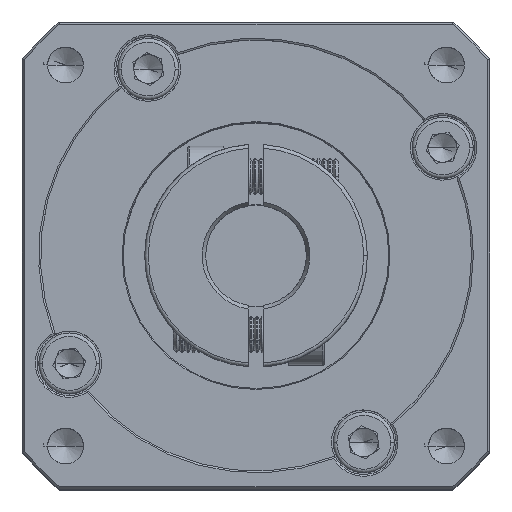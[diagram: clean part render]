
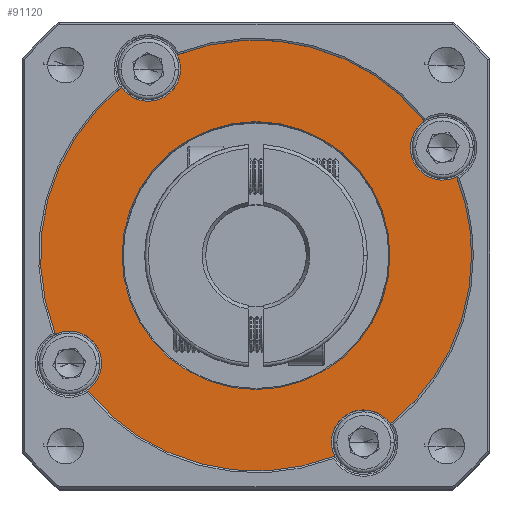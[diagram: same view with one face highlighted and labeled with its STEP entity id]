
A CAD part, top view. The second image highlights one B-rep face of the part: STEP entity #91120.
In plain terms, the highlighted planar face has unit normal (0, 0, 1).
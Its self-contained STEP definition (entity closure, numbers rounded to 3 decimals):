
#580 = VERTEX_POINT ( 'NONE', #54338 ) ;
#960 = VERTEX_POINT ( 'NONE', #89975 ) ;
#2285 = VERTEX_POINT ( 'NONE', #31292 ) ;
#2361 = AXIS2_PLACEMENT_3D ( 'NONE', #92431, #44758, #100383 ) ;
#5996 = EDGE_LOOP ( 'NONE', ( #40536, #64285 ) ) ;
#6106 = CIRCLE ( 'NONE', #98175, 30. ) ;
#6618 = CARTESIAN_POINT ( 'NONE',  ( -48.728, 29.687, 14.19 ) ) ;
#7718 = DIRECTION ( 'NONE',  ( 1., 0., 0. ) ) ;
#7973 = DIRECTION ( 'NONE',  ( 0., 0., 1. ) ) ;
#8687 = AXIS2_PLACEMENT_3D ( 'NONE', #79748, #32057, #87744 ) ;
#9512 = EDGE_CURVE ( 'NONE', #580, #2285, #61844, .T. ) ;
#10416 = EDGE_LOOP ( 'NONE', ( #48152, #46362, #55288, #100382, #94833, #67815, #102949, #67441, #72274, #65399, #74309, #58174, #73055 ) ) ;
#10583 = CIRCLE ( 'NONE', #18776, 30. ) ;
#10881 = CARTESIAN_POINT ( 'NONE',  ( -67.445, 53.132, 14.19 ) ) ;
#11104 = DIRECTION ( 'NONE',  ( 0., 0., 1. ) ) ;
#12158 = VERTEX_POINT ( 'NONE', #62290 ) ;
#12739 = VERTEX_POINT ( 'NONE', #79501 ) ;
#13048 = CARTESIAN_POINT ( 'NONE',  ( -59.673, 57.62, 14.19 ) ) ;
#13402 = DIRECTION ( 'NONE',  ( 0., 0., 1. ) ) ;
#14660 = DIRECTION ( 'NONE',  ( 1., 0., 0. ) ) ;
#15175 = VERTEX_POINT ( 'NONE', #65470 ) ;
#15712 = CARTESIAN_POINT ( 'NONE',  ( -22.747, 44.687, 14.19 ) ) ;
#17402 = CIRCLE ( 'NONE', #17854, 18.644 ) ;
#17854 = AXIS2_PLACEMENT_3D ( 'NONE', #85612, #37907, #93554 ) ;
#18776 = AXIS2_PLACEMENT_3D ( 'NONE', #41251, #96872, #49284 ) ;
#21478 = CARTESIAN_POINT ( 'NONE',  ( -25.283, 48.405, 14.19 ) ) ;
#21777 = CARTESIAN_POINT ( 'NONE',  ( -59.228, 55.668, 14.19 ) ) ;
#22384 = DIRECTION ( 'NONE',  ( 0., 0., 1. ) ) ;
#23012 = CIRCLE ( 'NONE', #69516, 18.644 ) ;
#23755 = DIRECTION ( 'NONE',  ( 1., 0., 0. ) ) ;
#24638 = AXIS2_PLACEMENT_3D ( 'NONE', #63376, #63246, #63133 ) ;
#26722 = AXIS2_PLACEMENT_3D ( 'NONE', #89559, #41907, #97528 ) ;
#27914 = CARTESIAN_POINT ( 'NONE',  ( -67.372, 29.687, 14.19 ) ) ;
#31292 = CARTESIAN_POINT ( 'NONE',  ( -70.209, 14.687, 14.19 ) ) ;
#31570 = EDGE_CURVE ( 'NONE', #91979, #12158, #87166, .T. ) ;
#31782 = DIRECTION ( 'NONE',  ( 0., 0., 1. ) ) ;
#32057 = DIRECTION ( 'NONE',  ( 0., 0., 1. ) ) ;
#32376 = VERTEX_POINT ( 'NONE', #39839 ) ;
#34356 = VERTEX_POINT ( 'NONE', #51025 ) ;
#35681 = DIRECTION ( 'NONE',  ( 0., 0., 1. ) ) ;
#36033 = CARTESIAN_POINT ( 'NONE',  ( -48.728, 29.687, 14.19 ) ) ;
#37907 = DIRECTION ( 'NONE',  ( 0., 0., -1. ) ) ;
#38050 = VERTEX_POINT ( 'NONE', #84730 ) ;
#39839 = CARTESIAN_POINT ( 'NONE',  ( -30.01, 6.243, 14.19 ) ) ;
#40422 = FACE_BOUND ( 'NONE', #5996, .T. ) ;
#40536 = ORIENTED_EDGE ( 'NONE', *, *, #90964, .T. ) ;
#41251 = CARTESIAN_POINT ( 'NONE',  ( -48.728, 29.687, 14.19 ) ) ;
#41481 = EDGE_CURVE ( 'NONE', #2285, #38050, #62004, .T. ) ;
#41568 = CIRCLE ( 'NONE', #62627, 4.5 ) ;
#41907 = DIRECTION ( 'NONE',  ( 0., 0., 1. ) ) ;
#43369 = CARTESIAN_POINT ( 'NONE',  ( -38.228, 3.707, 14.19 ) ) ;
#43821 = AXIS2_PLACEMENT_3D ( 'NONE', #79480, #31782, #87480 ) ;
#44001 = DIRECTION ( 'NONE',  ( 1., 0., 0. ) ) ;
#44758 = DIRECTION ( 'NONE',  ( 0., 0., 1. ) ) ;
#45414 = AXIS2_PLACEMENT_3D ( 'NONE', #58894, #11104, #66957 ) ;
#45428 = FACE_OUTER_BOUND ( 'NONE', #10416, .T. ) ;
#46362 = ORIENTED_EDGE ( 'NONE', *, *, #48919, .T. ) ;
#48152 = ORIENTED_EDGE ( 'NONE', *, *, #9512, .F. ) ;
#48919 = EDGE_CURVE ( 'NONE', #580, #960, #78797, .T. ) ;
#48944 = CIRCLE ( 'NONE', #43821, 30. ) ;
#49284 = DIRECTION ( 'NONE',  ( 1., 0., 0. ) ) ;
#49802 = AXIS2_PLACEMENT_3D ( 'NONE', #103108, #55571, #7718 ) ;
#51025 = CARTESIAN_POINT ( 'NONE',  ( -30.083, 29.687, 14.19 ) ) ;
#54338 = CARTESIAN_POINT ( 'NONE',  ( -72.173, 10.97, 14.19 ) ) ;
#55288 = ORIENTED_EDGE ( 'NONE', *, *, #59945, .F. ) ;
#55571 = DIRECTION ( 'NONE',  ( 0., 0., 1. ) ) ;
#55822 = CARTESIAN_POINT ( 'NONE',  ( -74.709, 14.687, 14.19 ) ) ;
#58095 = AXIS2_PLACEMENT_3D ( 'NONE', #55822, #7973, #63839 ) ;
#58174 = ORIENTED_EDGE ( 'NONE', *, *, #64223, .T. ) ;
#58481 = CIRCLE ( 'NONE', #8687, 4.5 ) ;
#58894 = CARTESIAN_POINT ( 'NONE',  ( -22.747, 44.687, 14.19 ) ) ;
#59945 = EDGE_CURVE ( 'NONE', #70482, #960, #86503, .T. ) ;
#61242 = CARTESIAN_POINT ( 'NONE',  ( -33.728, 3.707, 14.19 ) ) ;
#61844 = CIRCLE ( 'NONE', #24638, 4.5 ) ;
#62004 = CIRCLE ( 'NONE', #58095, 4.5 ) ;
#62290 = CARTESIAN_POINT ( 'NONE',  ( -27.247, 44.687, 14.19 ) ) ;
#62478 = DIRECTION ( 'NONE',  ( 0., 0., 1. ) ) ;
#62627 = AXIS2_PLACEMENT_3D ( 'NONE', #15712, #71555, #23755 ) ;
#62909 = VERTEX_POINT ( 'NONE', #10881 ) ;
#63133 = DIRECTION ( 'NONE',  ( 1., 0., 0. ) ) ;
#63246 = DIRECTION ( 'NONE',  ( 0., 0., 1. ) ) ;
#63376 = CARTESIAN_POINT ( 'NONE',  ( -74.709, 14.687, 14.19 ) ) ;
#63839 = DIRECTION ( 'NONE',  ( 1., 0., 0. ) ) ;
#64223 = EDGE_CURVE ( 'NONE', #62909, #38050, #10583, .T. ) ;
#64285 = ORIENTED_EDGE ( 'NONE', *, *, #73738, .T. ) ;
#65399 = ORIENTED_EDGE ( 'NONE', *, *, #98124, .F. ) ;
#65470 = CARTESIAN_POINT ( 'NONE',  ( -18.728, 29.687, 14.19 ) ) ;
#65699 = CIRCLE ( 'NONE', #49802, 4.5 ) ;
#66503 = AXIS2_PLACEMENT_3D ( 'NONE', #83346, #35681, #91325 ) ;
#66957 = DIRECTION ( 'NONE',  ( 1., 0., 0. ) ) ;
#67441 = ORIENTED_EDGE ( 'NONE', *, *, #31570, .F. ) ;
#67580 = AXIS2_PLACEMENT_3D ( 'NONE', #6618, #62478, #14660 ) ;
#67815 = ORIENTED_EDGE ( 'NONE', *, *, #86558, .T. ) ;
#67970 = EDGE_CURVE ( 'NONE', #12158, #12739, #41568, .T. ) ;
#68401 = AXIS2_PLACEMENT_3D ( 'NONE', #61242, #13402, #69216 ) ;
#69216 = DIRECTION ( 'NONE',  ( 1., 0., 0. ) ) ;
#69516 = AXIS2_PLACEMENT_3D ( 'NONE', #36033, #91674, #44001 ) ;
#70151 = CARTESIAN_POINT ( 'NONE',  ( -48.728, 29.687, 14.19 ) ) ;
#70482 = VERTEX_POINT ( 'NONE', #43369 ) ;
#71555 = DIRECTION ( 'NONE',  ( 0., 0., 1. ) ) ;
#72274 = ORIENTED_EDGE ( 'NONE', *, *, #72938, .T. ) ;
#72938 = EDGE_CURVE ( 'NONE', #91979, #101109, #48944, .T. ) ;
#73055 = ORIENTED_EDGE ( 'NONE', *, *, #41481, .F. ) ;
#73738 = EDGE_CURVE ( 'NONE', #85456, #34356, #17402, .T. ) ;
#74309 = ORIENTED_EDGE ( 'NONE', *, *, #101281, .F. ) ;
#78143 = PLANE ( 'NONE',  #67580 ) ;
#78170 = DIRECTION ( 'NONE',  ( 1., 0., 0. ) ) ;
#78797 = CIRCLE ( 'NONE', #2361, 30. ) ;
#79480 = CARTESIAN_POINT ( 'NONE',  ( -48.728, 29.687, 14.19 ) ) ;
#79501 = CARTESIAN_POINT ( 'NONE',  ( -20.796, 40.632, 14.19 ) ) ;
#79748 = CARTESIAN_POINT ( 'NONE',  ( -63.728, 55.668, 14.19 ) ) ;
#81481 = CIRCLE ( 'NONE', #26722, 30. ) ;
#83346 = CARTESIAN_POINT ( 'NONE',  ( -33.728, 3.707, 14.19 ) ) ;
#84421 = CIRCLE ( 'NONE', #66503, 4.5 ) ;
#84730 = CARTESIAN_POINT ( 'NONE',  ( -76.66, 18.742, 14.19 ) ) ;
#85180 = EDGE_CURVE ( 'NONE', #32376, #15175, #81481, .T. ) ;
#85456 = VERTEX_POINT ( 'NONE', #27914 ) ;
#85612 = CARTESIAN_POINT ( 'NONE',  ( -48.728, 29.687, 14.19 ) ) ;
#86503 = CIRCLE ( 'NONE', #68401, 4.5 ) ;
#86558 = EDGE_CURVE ( 'NONE', #15175, #12739, #6106, .T. ) ;
#87166 = CIRCLE ( 'NONE', #45414, 4.5 ) ;
#87480 = DIRECTION ( 'NONE',  ( 1., 0., 0. ) ) ;
#87744 = DIRECTION ( 'NONE',  ( 1., 0., 0. ) ) ;
#89559 = CARTESIAN_POINT ( 'NONE',  ( -48.728, 29.687, 14.19 ) ) ;
#89975 = CARTESIAN_POINT ( 'NONE',  ( -37.783, 1.755, 14.19 ) ) ;
#90964 = EDGE_CURVE ( 'NONE', #34356, #85456, #23012, .T. ) ;
#91120 = ADVANCED_FACE ( 'NONE', ( #40422, #45428 ), #78143, .T. ) ;
#91325 = DIRECTION ( 'NONE',  ( 1., 0., 0. ) ) ;
#91674 = DIRECTION ( 'NONE',  ( 0., 0., -1. ) ) ;
#91979 = VERTEX_POINT ( 'NONE', #21478 ) ;
#92431 = CARTESIAN_POINT ( 'NONE',  ( -48.728, 29.687, 14.19 ) ) ;
#93554 = DIRECTION ( 'NONE',  ( 1., 0., 0. ) ) ;
#93600 = EDGE_CURVE ( 'NONE', #32376, #70482, #84421, .T. ) ;
#94833 = ORIENTED_EDGE ( 'NONE', *, *, #85180, .T. ) ;
#95597 = VERTEX_POINT ( 'NONE', #21777 ) ;
#96872 = DIRECTION ( 'NONE',  ( 0., 0., 1. ) ) ;
#97528 = DIRECTION ( 'NONE',  ( 1., 0., 0. ) ) ;
#98124 = EDGE_CURVE ( 'NONE', #95597, #101109, #58481, .T. ) ;
#98175 = AXIS2_PLACEMENT_3D ( 'NONE', #70151, #22384, #78170 ) ;
#100382 = ORIENTED_EDGE ( 'NONE', *, *, #93600, .F. ) ;
#100383 = DIRECTION ( 'NONE',  ( 1., 0., 0. ) ) ;
#101109 = VERTEX_POINT ( 'NONE', #13048 ) ;
#101281 = EDGE_CURVE ( 'NONE', #62909, #95597, #65699, .T. ) ;
#102949 = ORIENTED_EDGE ( 'NONE', *, *, #67970, .F. ) ;
#103108 = CARTESIAN_POINT ( 'NONE',  ( -63.728, 55.668, 14.19 ) ) ;
